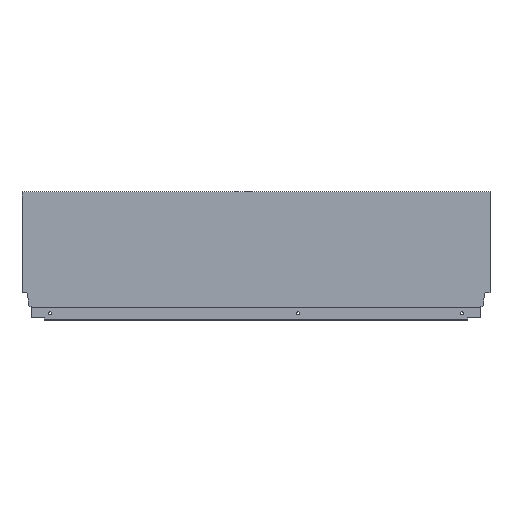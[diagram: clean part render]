
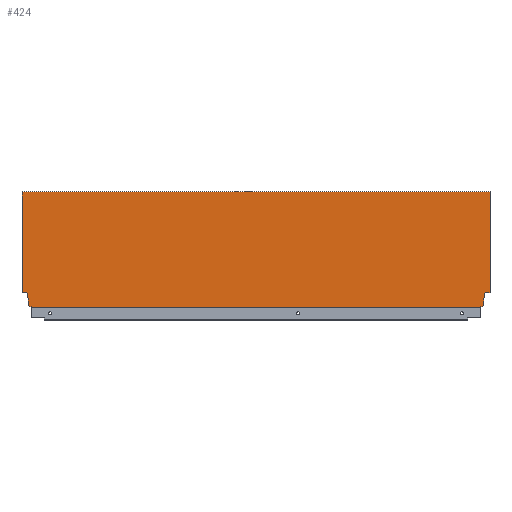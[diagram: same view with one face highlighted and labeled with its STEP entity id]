
A CAD part, top view. The second image highlights one B-rep face of the part: STEP entity #424.
In plain terms, the highlighted planar face has unit normal (0, 0, 1).
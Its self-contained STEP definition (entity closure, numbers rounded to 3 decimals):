
#45 = EDGE_CURVE ( 'NONE', #944, #965, #194, .T. ) ;
#48 = EDGE_CURVE ( 'NONE', #944, #912, #199, .T. ) ;
#49 = EDGE_CURVE ( 'NONE', #898, #945, #197, .T. ) ;
#50 = EDGE_CURVE ( 'NONE', #896, #898, #203, .T. ) ;
#51 = EDGE_CURVE ( 'NONE', #900, #896, #205, .T. ) ;
#52 = EDGE_CURVE ( 'NONE', #965, #900, #207, .T. ) ;
#53 = EDGE_CURVE ( 'NONE', #930, #912, #209, .T. ) ;
#54 = EDGE_CURVE ( 'NONE', #893, #945, #211, .T. ) ;
#55 = EDGE_CURVE ( 'NONE', #918, #930, #213, .T. ) ;
#56 = EDGE_CURVE ( 'NONE', #950, #918, #190, .T. ) ;
#57 = EDGE_CURVE ( 'NONE', #943, #899, #196, .T. ) ;
#58 = EDGE_CURVE ( 'NONE', #936, #950, #202, .T. ) ;
#60 = EDGE_CURVE ( 'NONE', #899, #936, #218, .T. ) ;
#62 = EDGE_CURVE ( 'NONE', #893, #943, #222, .T. ) ;
#144 = AXIS2_PLACEMENT_3D ( 'NONE', #632, #629, #689 ) ;
#190 = LINE ( 'NONE', #768, #215 ) ;
#194 = LINE ( 'NONE', #776, #195 ) ;
#195 = VECTOR ( 'NONE', #775, 1000. ) ;
#196 = LINE ( 'NONE', #754, #217 ) ;
#197 = LINE ( 'NONE', #781, #201 ) ;
#199 = LINE ( 'NONE', #770, #200 ) ;
#200 = VECTOR ( 'NONE', #769, 1000. ) ;
#201 = VECTOR ( 'NONE', #767, 1000. ) ;
#202 = LINE ( 'NONE', #730, #219 ) ;
#203 = LINE ( 'NONE', #766, #204 ) ;
#204 = VECTOR ( 'NONE', #765, 1000. ) ;
#205 = LINE ( 'NONE', #764, #206 ) ;
#206 = VECTOR ( 'NONE', #763, 1000. ) ;
#207 = LINE ( 'NONE', #762, #208 ) ;
#208 = VECTOR ( 'NONE', #761, 1000. ) ;
#209 = LINE ( 'NONE', #760, #210 ) ;
#210 = VECTOR ( 'NONE', #759, 1000. ) ;
#211 = LINE ( 'NONE', #758, #212 ) ;
#212 = VECTOR ( 'NONE', #757, 1000. ) ;
#213 = LINE ( 'NONE', #756, #214 ) ;
#214 = VECTOR ( 'NONE', #755, 1000. ) ;
#215 = VECTOR ( 'NONE', #731, 1000. ) ;
#217 = VECTOR ( 'NONE', #729, 1000. ) ;
#218 = LINE ( 'NONE', #599, #223 ) ;
#219 = VECTOR ( 'NONE', #600, 1000. ) ;
#222 = LINE ( 'NONE', #595, #227 ) ;
#223 = VECTOR ( 'NONE', #596, 1000. ) ;
#227 = VECTOR ( 'NONE', #1083, 1000. ) ;
#424 = ADVANCED_FACE ( 'NONE', ( #1278 ), #631, .T. ) ;
#499 = CARTESIAN_POINT ( 'NONE',  ( -8.9, 2.64, 7.5 ) ) ;
#505 = CARTESIAN_POINT ( 'NONE',  ( -7.06, 21.2, 7.5 ) ) ;
#512 = CARTESIAN_POINT ( 'NONE',  ( 0., 21.2, 7.5 ) ) ;
#513 = CARTESIAN_POINT ( 'NONE',  ( -658.1, 2.64, 7.5 ) ) ;
#517 = CARTESIAN_POINT ( 'NONE',  ( -667., 164.7, 7.5 ) ) ;
#519 = CARTESIAN_POINT ( 'NONE',  ( -658.1, 10.765, 7.5 ) ) ;
#521 = CARTESIAN_POINT ( 'NONE',  ( -659.94, 21.2, 7.5 ) ) ;
#536 = CARTESIAN_POINT ( 'NONE',  ( -13.004, 0., 7.5 ) ) ;
#542 = CARTESIAN_POINT ( 'NONE',  ( 0., 164.7, 7.5 ) ) ;
#543 = CARTESIAN_POINT ( 'NONE',  ( -653.996, 0., 7.5 ) ) ;
#544 = CARTESIAN_POINT ( 'NONE',  ( -667., 21.2, 7.5 ) ) ;
#554 = CARTESIAN_POINT ( 'NONE',  ( -8.9, 10.765, 7.5 ) ) ;
#595 = CARTESIAN_POINT ( 'NONE',  ( -667., 164.7, 7.5 ) ) ;
#596 = DIRECTION ( 'NONE',  ( -1., 0., 0. ) ) ;
#599 = CARTESIAN_POINT ( 'NONE',  ( 0., 21.2, 7.5 ) ) ;
#600 = DIRECTION ( 'NONE',  ( -0.174, -0.985, 0. ) ) ;
#629 = DIRECTION ( 'NONE',  ( 0., 0., 1. ) ) ;
#631 = PLANE ( 'NONE',  #144 ) ;
#632 = CARTESIAN_POINT ( 'NONE',  ( -667., 0., 7.5 ) ) ;
#689 = DIRECTION ( 'NONE',  ( 1., 0., 0. ) ) ;
#716 = CARTESIAN_POINT ( 'NONE',  ( -13.004, 1.146, 7.5 ) ) ;
#729 = DIRECTION ( 'NONE',  ( 0., -1., 0. ) ) ;
#730 = CARTESIAN_POINT ( 'NONE',  ( -7.06, 21.2, 7.5 ) ) ;
#731 = DIRECTION ( 'NONE',  ( 0., -1., 0. ) ) ;
#754 = CARTESIAN_POINT ( 'NONE',  ( 0., 0., 7.5 ) ) ;
#755 = DIRECTION ( 'NONE',  ( -0.94, -0.342, 0. ) ) ;
#756 = CARTESIAN_POINT ( 'NONE',  ( -8.9, 2.64, 7.5 ) ) ;
#757 = DIRECTION ( 'NONE',  ( 0., -1., 0. ) ) ;
#758 = CARTESIAN_POINT ( 'NONE',  ( -667., 0., 7.5 ) ) ;
#759 = DIRECTION ( 'NONE',  ( 0., -1., 0. ) ) ;
#760 = CARTESIAN_POINT ( 'NONE',  ( -13.004, 1.146, 7.5 ) ) ;
#761 = DIRECTION ( 'NONE',  ( -0.94, 0.342, 0. ) ) ;
#762 = CARTESIAN_POINT ( 'NONE',  ( -658.1, 2.64, 7.5 ) ) ;
#763 = DIRECTION ( 'NONE',  ( 0., 1., 0. ) ) ;
#764 = CARTESIAN_POINT ( 'NONE',  ( -658.1, 10.765, 7.5 ) ) ;
#765 = DIRECTION ( 'NONE',  ( -0.174, 0.985, 0. ) ) ;
#766 = CARTESIAN_POINT ( 'NONE',  ( -659.94, 21.2, 7.5 ) ) ;
#767 = DIRECTION ( 'NONE',  ( -1., 0., 0. ) ) ;
#768 = CARTESIAN_POINT ( 'NONE',  ( -8.9, 10.765, 7.5 ) ) ;
#769 = DIRECTION ( 'NONE',  ( 1., 0., 0. ) ) ;
#770 = CARTESIAN_POINT ( 'NONE',  ( -667., 0., 7.5 ) ) ;
#775 = DIRECTION ( 'NONE',  ( 0., 1., 0. ) ) ;
#776 = CARTESIAN_POINT ( 'NONE',  ( -653.996, 1.146, 7.5 ) ) ;
#781 = CARTESIAN_POINT ( 'NONE',  ( -672., 21.2, 7.5 ) ) ;
#893 = VERTEX_POINT ( 'NONE', #517 ) ;
#896 = VERTEX_POINT ( 'NONE', #519 ) ;
#898 = VERTEX_POINT ( 'NONE', #521 ) ;
#899 = VERTEX_POINT ( 'NONE', #512 ) ;
#900 = VERTEX_POINT ( 'NONE', #513 ) ;
#912 = VERTEX_POINT ( 'NONE', #536 ) ;
#918 = VERTEX_POINT ( 'NONE', #499 ) ;
#930 = VERTEX_POINT ( 'NONE', #716 ) ;
#936 = VERTEX_POINT ( 'NONE', #505 ) ;
#943 = VERTEX_POINT ( 'NONE', #542 ) ;
#944 = VERTEX_POINT ( 'NONE', #543 ) ;
#945 = VERTEX_POINT ( 'NONE', #544 ) ;
#950 = VERTEX_POINT ( 'NONE', #554 ) ;
#965 = VERTEX_POINT ( 'NONE', #1384 ) ;
#1083 = DIRECTION ( 'NONE',  ( 1., 0., 0. ) ) ;
#1107 = ORIENTED_EDGE ( 'NONE', *, *, #54, .T. ) ;
#1188 = EDGE_LOOP ( 'NONE', ( #1107, #1449, #1450, #1460, #1461, #1462, #1457, #1458, #1459, #1454, #1455, #1456, #1451, #1452 ) ) ;
#1278 = FACE_OUTER_BOUND ( 'NONE', #1188, .T. ) ;
#1384 = CARTESIAN_POINT ( 'NONE',  ( -653.996, 1.146, 7.5 ) ) ;
#1449 = ORIENTED_EDGE ( 'NONE', *, *, #49, .F. ) ;
#1450 = ORIENTED_EDGE ( 'NONE', *, *, #50, .F. ) ;
#1451 = ORIENTED_EDGE ( 'NONE', *, *, #57, .F. ) ;
#1452 = ORIENTED_EDGE ( 'NONE', *, *, #62, .F. ) ;
#1454 = ORIENTED_EDGE ( 'NONE', *, *, #56, .F. ) ;
#1455 = ORIENTED_EDGE ( 'NONE', *, *, #58, .F. ) ;
#1456 = ORIENTED_EDGE ( 'NONE', *, *, #60, .F. ) ;
#1457 = ORIENTED_EDGE ( 'NONE', *, *, #48, .T. ) ;
#1458 = ORIENTED_EDGE ( 'NONE', *, *, #53, .F. ) ;
#1459 = ORIENTED_EDGE ( 'NONE', *, *, #55, .F. ) ;
#1460 = ORIENTED_EDGE ( 'NONE', *, *, #51, .F. ) ;
#1461 = ORIENTED_EDGE ( 'NONE', *, *, #52, .F. ) ;
#1462 = ORIENTED_EDGE ( 'NONE', *, *, #45, .F. ) ;
